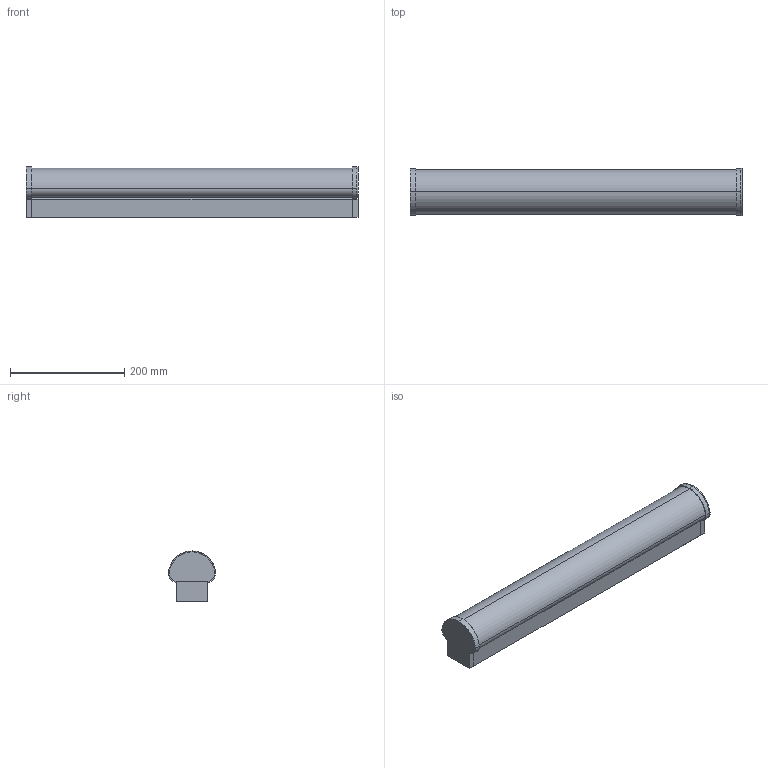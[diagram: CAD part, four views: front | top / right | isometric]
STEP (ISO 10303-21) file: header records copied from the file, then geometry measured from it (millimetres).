
FILE_DESCRIPTION(/* description */ (''),/* implementation_level */ '2;1');
FILE_NAME(/* name */ 'C:\Users\FrancoSartori\Documents\FARO\01_En Proceso\2021\0_DANUBIO\03_Publicación\63602.stp',/* time_stamp */ '2021-04-13T11:57:34+02:00',/* author */ ('FrancoSartori'),/* organization */ (''),/* preprocessor_version */ 'ST-DEVELOPER v18.1',/* originating_system */ 'AutoCAD Mechanical',/* authorisation */ '');
FILE_SCHEMA (('AUTOMOTIVE_DESIGN { 1 0 10303 214 3 1 1 }'));
Length unit declared in the file: millimetre
Products named in the file (2): Product; 63600_ 63603_ 63601_ 6364_ 63602_ 63605 - Lamp-463411-Export
Assembly tree (1 placements, depth 2):
  Product
    63600_ 63603_ 63601_ 6364_ 63602_ 63605 - Lamp-463411-Export
Bounding box: 580 x 82.28 x 87.51 mm (x, y, z)
Volume: 460839.3 mm3; surface area: 523426.6 mm2
Topology: 4 solids, 5 shells, 94 faces, 233 edges, 151 vertices
Faces by surface type: cylinder 50, plane 44
Entity records: 3275 total; most frequent: CARTESIAN_POINT 905, DIRECTION 501, ORIENTED_EDGE 458, EDGE_CURVE 233, AXIS2_PLACEMENT_3D 179, VERTEX_POINT 151, LINE 143, VECTOR 143
